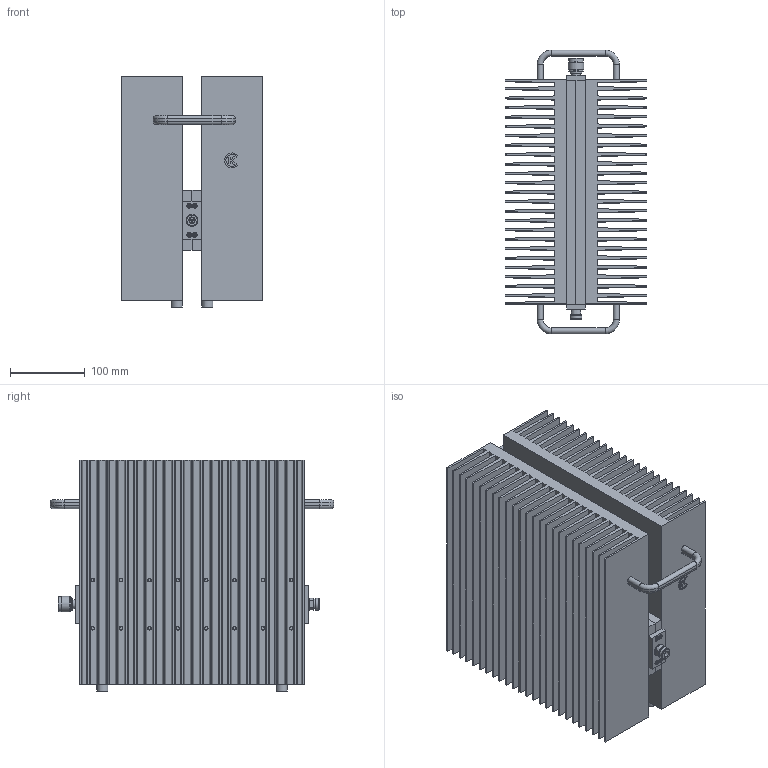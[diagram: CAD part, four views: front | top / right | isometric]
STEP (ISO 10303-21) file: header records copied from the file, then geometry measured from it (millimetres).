
FILE_DESCRIPTION(('STEP AP203'), '1');
FILE_NAME('ÏÐ1-25-1000', '', ('UNSPECIFIED'), ('UNSPECIFIED'), 'C3D Converter', 'C3D Toolkit', '');
FILE_SCHEMA(('CONFIG_CONTROL_DESIGN'));
Length unit declared in the file: millimetre
Products named in the file (16): -01
Assembly tree (53 placements, depth 3):
  (unnamed)
    (unnamed)
    (unnamed)
    (unnamed)  x2
    (unnamed)  x2
    (unnamed)  x2
    (unnamed)
      (unnamed)
      (unnamed)
      (unnamed)  x10
    (unnamed)  x4
    (unnamed)  x16
    (unnamed)  x2
    (unnamed)  x8
    -01
    (unnamed)
Bounding box: 189 x 380 x 310 mm (x, y, z)
Volume: 6916375.6 mm3; surface area: 2553225.1 mm2
Topology: 52 solids, 52 shells, 1189 faces, 2831 edges, 1832 vertices
Faces by surface type: plane 736, cylinder 279, torus 88, cone 86
Full cylindrical faces by diameter (mm): 1.65 x1, 1.66 x1, 3 x16, 3.04 x2, 3.242 x8, 4.917 x26, 5 x14, 5.5 x12, 6 x16, 6.2 x16, 6.5 x50, 7 x2, 8.04 x1, 8.06 x1, 8.5 x18, 9 x1, 10 x16, 11 x26, 11.6 x2, 12.7 x1, 14 x2, 14.94 x1, 15 x4, 15.75 x1, 15.87 x1, 16 x4, 16.5 x1, 17.46 x1, 17.8 x1, 19.8 x2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
Entity records: 24891 total; most frequent: CARTESIAN_POINT 4210, DIRECTION 3102, ORIENTED_EDGE 2786, EDGE_CURVE 1393, AXIS2_PLACEMENT_3D 1119, EDGE_LOOP 1046, VERTEX_POINT 1037, LINE 864
